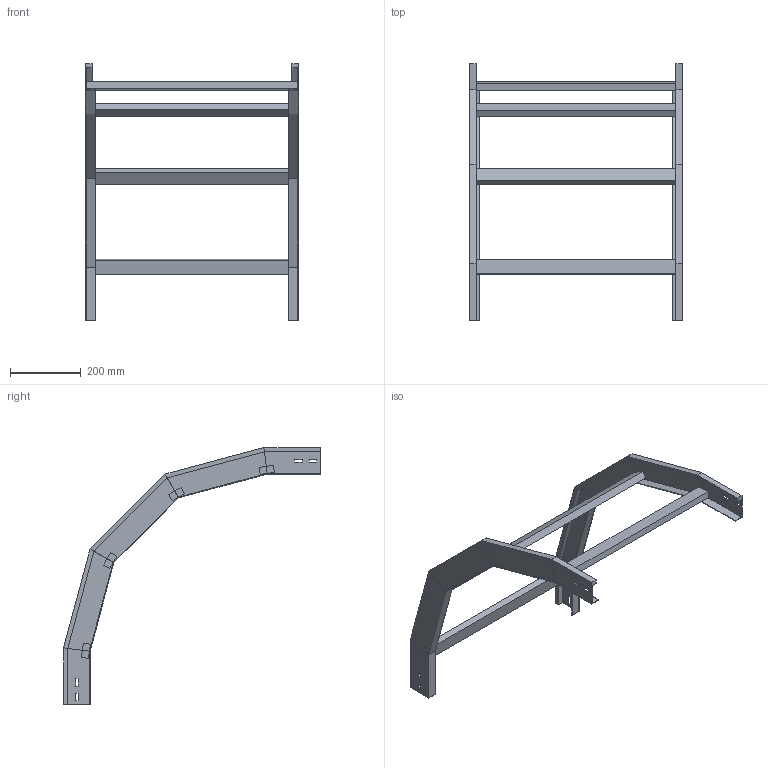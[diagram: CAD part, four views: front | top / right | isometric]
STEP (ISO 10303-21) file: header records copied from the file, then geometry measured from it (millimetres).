
FILE_DESCRIPTION (( 'STEP AP214' ), '1' );
FILE_NAME ('33B5C600.step', '2025-02-21T15:05:04', ( '' ), ( '' ), 'SwSTEP 2.0', 'SolidWorks 2023', '' );
FILE_SCHEMA (( 'AUTOMOTIVE_DESIGN' ));
Length unit declared in the file: millimetre
Products named in the file (3): TRAVERSINO_600; LONGH.DISCESA_90°_H75_R500; 33B5C600
Assembly tree (6 placements, depth 2):
  33B5C600
    LONGH.DISCESA_90°_H75_R500  x2
    TRAVERSINO_600  x4
Bounding box: 600 x 725.35 x 725.35 mm (x, y, z)
Volume: 2833437.3 mm3; surface area: 829000 mm2
Topology: 6 solids, 6 shells, 140 faces, 320 edges, 192 vertices
Faces by surface type: plane 140
Entity records: 1872 total; most frequent: CARTESIAN_POINT 309, ORIENTED_EDGE 296, DIRECTION 294, LINE 148, VECTOR 148, EDGE_CURVE 148, VERTEX_POINT 88, AXIS2_PLACEMENT_3D 73
